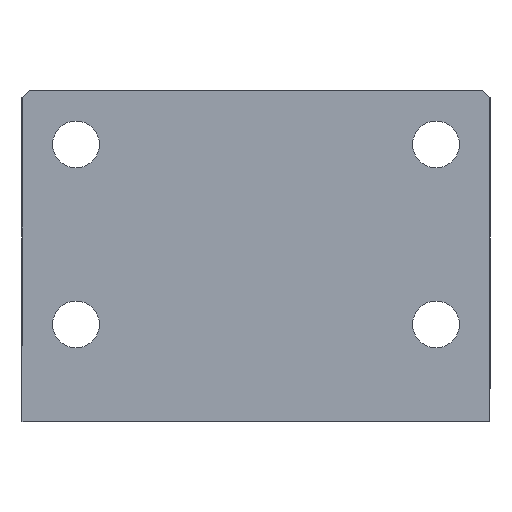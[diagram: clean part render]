
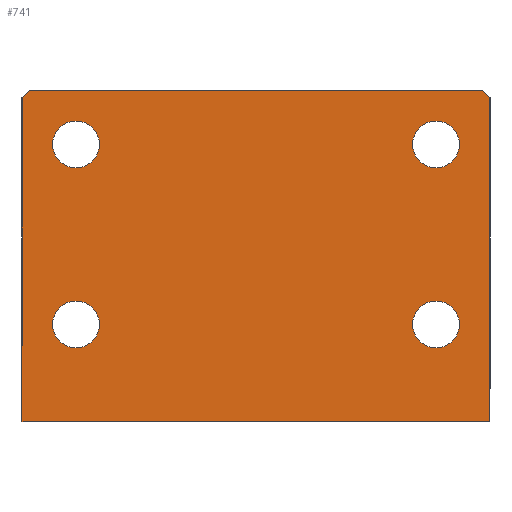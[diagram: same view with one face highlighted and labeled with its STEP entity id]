
A CAD part, front view. The second image highlights one B-rep face of the part: STEP entity #741.
In plain terms, the highlighted planar face has unit normal (0, -1, 0).
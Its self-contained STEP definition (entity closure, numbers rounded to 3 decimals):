
#2 = EDGE_CURVE ( 'NONE', #465, #338, #923, .T. ) ;
#3 = VERTEX_POINT ( 'NONE', #968 ) ;
#6 = CARTESIAN_POINT ( 'NONE',  ( 25., 0., -32.5 ) ) ;
#17 = CARTESIAN_POINT ( 'NONE',  ( -25., 0., -7.5 ) ) ;
#21 = DIRECTION ( 'NONE',  ( 0., 0., 1. ) ) ;
#64 = EDGE_CURVE ( 'NONE', #355, #707, #182, .T. ) ;
#85 = DIRECTION ( 'NONE',  ( 0., 0., 1. ) ) ;
#101 = EDGE_CURVE ( 'NONE', #156, #1108, #955, .T. ) ;
#104 = DIRECTION ( 'NONE',  ( 0., 1., 0. ) ) ;
#116 = ORIENTED_EDGE ( 'NONE', *, *, #939, .T. ) ;
#117 = CARTESIAN_POINT ( 'NONE',  ( -32.5, 0., 0. ) ) ;
#131 = EDGE_LOOP ( 'NONE', ( #1181, #564 ) ) ;
#139 = EDGE_LOOP ( 'NONE', ( #811, #1128 ) ) ;
#153 = CARTESIAN_POINT ( 'NONE',  ( 32.5, 0., -1. ) ) ;
#154 = AXIS2_PLACEMENT_3D ( 'NONE', #889, #344, #433 ) ;
#156 = VERTEX_POINT ( 'NONE', #153 ) ;
#159 = FACE_BOUND ( 'NONE', #139, .T. ) ;
#182 = LINE ( 'NONE', #236, #500 ) ;
#202 = CARTESIAN_POINT ( 'NONE',  ( 25., 0., -29.25 ) ) ;
#203 = DIRECTION ( 'NONE',  ( 0., 1., 0. ) ) ;
#214 = DIRECTION ( 'NONE',  ( 0., 1., 0. ) ) ;
#216 = EDGE_CURVE ( 'NONE', #649, #894, #1044, .T. ) ;
#227 = FACE_BOUND ( 'NONE', #1053, .T. ) ;
#236 = CARTESIAN_POINT ( 'NONE',  ( -15.75, 0., 15.75 ) ) ;
#248 = CARTESIAN_POINT ( 'NONE',  ( 25., 0., -4.25 ) ) ;
#260 = DIRECTION ( 'NONE',  ( 0., -1., 0. ) ) ;
#326 = AXIS2_PLACEMENT_3D ( 'NONE', #1016, #260, #538 ) ;
#338 = VERTEX_POINT ( 'NONE', #248 ) ;
#344 = DIRECTION ( 'NONE',  ( 0., 1., 0. ) ) ;
#349 = DIRECTION ( 'NONE',  ( 0., 1., 0. ) ) ;
#355 = VERTEX_POINT ( 'NONE', #1018 ) ;
#376 = DIRECTION ( 'NONE',  ( 0., 0., 1. ) ) ;
#377 = DIRECTION ( 'NONE',  ( 0., 0., -1. ) ) ;
#382 = EDGE_CURVE ( 'NONE', #460, #1029, #400, .T. ) ;
#394 = DIRECTION ( 'NONE',  ( 1., 0., 0. ) ) ;
#399 = CARTESIAN_POINT ( 'NONE',  ( -32.5, 0., 0. ) ) ;
#400 = CIRCLE ( 'NONE', #985, 3.25 ) ;
#409 = DIRECTION ( 'NONE',  ( 0., 0., 1. ) ) ;
#413 = LINE ( 'NONE', #635, #1023 ) ;
#424 = DIRECTION ( 'NONE',  ( -0.707, 0., -0.707 ) ) ;
#429 = DIRECTION ( 'NONE',  ( -0.707, 0., 0.707 ) ) ;
#433 = DIRECTION ( 'NONE',  ( 0., 0., 1. ) ) ;
#452 = AXIS2_PLACEMENT_3D ( 'NONE', #793, #685, #409 ) ;
#455 = CIRCLE ( 'NONE', #515, 3.25 ) ;
#457 = VECTOR ( 'NONE', #429, 1000. ) ;
#459 = EDGE_CURVE ( 'NONE', #894, #649, #455, .T. ) ;
#460 = VERTEX_POINT ( 'NONE', #202 ) ;
#465 = VERTEX_POINT ( 'NONE', #772 ) ;
#478 = EDGE_CURVE ( 'NONE', #355, #1108, #513, .T. ) ;
#479 = ORIENTED_EDGE ( 'NONE', *, *, #789, .F. ) ;
#482 = DIRECTION ( 'NONE',  ( 0., 0., 1. ) ) ;
#495 = VERTEX_POINT ( 'NONE', #667 ) ;
#500 = VECTOR ( 'NONE', #424, 1000. ) ;
#513 = LINE ( 'NONE', #117, #748 ) ;
#515 = AXIS2_PLACEMENT_3D ( 'NONE', #943, #214, #576 ) ;
#517 = CARTESIAN_POINT ( 'NONE',  ( -32.5, 0., -46. ) ) ;
#519 = EDGE_LOOP ( 'NONE', ( #653, #116 ) ) ;
#538 = DIRECTION ( 'NONE',  ( 0., 0., -1. ) ) ;
#540 = CIRCLE ( 'NONE', #842, 3.25 ) ;
#564 = ORIENTED_EDGE ( 'NONE', *, *, #960, .T. ) ;
#576 = DIRECTION ( 'NONE',  ( 0., 0., 1. ) ) ;
#582 = ORIENTED_EDGE ( 'NONE', *, *, #1079, .F. ) ;
#587 = LINE ( 'NONE', #399, #1134 ) ;
#622 = ORIENTED_EDGE ( 'NONE', *, *, #875, .F. ) ;
#628 = FACE_BOUND ( 'NONE', #519, .T. ) ;
#635 = CARTESIAN_POINT ( 'NONE',  ( 32.5, 0., 0. ) ) ;
#640 = CARTESIAN_POINT ( 'NONE',  ( -32.5, 0., -46. ) ) ;
#649 = VERTEX_POINT ( 'NONE', #986 ) ;
#653 = ORIENTED_EDGE ( 'NONE', *, *, #994, .T. ) ;
#654 = EDGE_LOOP ( 'NONE', ( #859, #814, #582, #622, #479, #829 ) ) ;
#667 = CARTESIAN_POINT ( 'NONE',  ( -25., 0., -10.75 ) ) ;
#681 = DIRECTION ( 'NONE',  ( 0., 0., 1. ) ) ;
#685 = DIRECTION ( 'NONE',  ( 0., 1., 0. ) ) ;
#691 = CIRCLE ( 'NONE', #154, 3.25 ) ;
#693 = EDGE_CURVE ( 'NONE', #338, #465, #691, .T. ) ;
#694 = AXIS2_PLACEMENT_3D ( 'NONE', #1187, #349, #85 ) ;
#695 = VERTEX_POINT ( 'NONE', #517 ) ;
#707 = VERTEX_POINT ( 'NONE', #997 ) ;
#710 = VERTEX_POINT ( 'NONE', #1076 ) ;
#720 = FACE_BOUND ( 'NONE', #131, .T. ) ;
#741 = ADVANCED_FACE ( 'NONE', ( #227, #1168, #720, #159, #628 ), #818, .T. ) ;
#748 = VECTOR ( 'NONE', #394, 1000. ) ;
#756 = CARTESIAN_POINT ( 'NONE',  ( 25., 0., -35.75 ) ) ;
#765 = CARTESIAN_POINT ( 'NONE',  ( -25., 0., -35.75 ) ) ;
#768 = CIRCLE ( 'NONE', #1142, 3.25 ) ;
#772 = CARTESIAN_POINT ( 'NONE',  ( 25., 0., -10.75 ) ) ;
#789 = EDGE_CURVE ( 'NONE', #156, #3, #413, .T. ) ;
#793 = CARTESIAN_POINT ( 'NONE',  ( 25., 0., -7.5 ) ) ;
#811 = ORIENTED_EDGE ( 'NONE', *, *, #693, .T. ) ;
#814 = ORIENTED_EDGE ( 'NONE', *, *, #64, .T. ) ;
#818 = PLANE ( 'NONE',  #326 ) ;
#829 = ORIENTED_EDGE ( 'NONE', *, *, #101, .T. ) ;
#831 = DIRECTION ( 'NONE',  ( -1., 0., 0. ) ) ;
#842 = AXIS2_PLACEMENT_3D ( 'NONE', #1110, #104, #21 ) ;
#859 = ORIENTED_EDGE ( 'NONE', *, *, #478, .F. ) ;
#860 = ORIENTED_EDGE ( 'NONE', *, *, #459, .T. ) ;
#875 = EDGE_CURVE ( 'NONE', #3, #695, #1156, .T. ) ;
#889 = CARTESIAN_POINT ( 'NONE',  ( 25., 0., -7.5 ) ) ;
#894 = VERTEX_POINT ( 'NONE', #765 ) ;
#923 = CIRCLE ( 'NONE', #452, 3.25 ) ;
#927 = CARTESIAN_POINT ( 'NONE',  ( 25., 0., -32.5 ) ) ;
#929 = DIRECTION ( 'NONE',  ( 0., 1., 0. ) ) ;
#930 = DIRECTION ( 'NONE',  ( 0., 1., 0. ) ) ;
#931 = CARTESIAN_POINT ( 'NONE',  ( 31.5, 0., 0. ) ) ;
#939 = EDGE_CURVE ( 'NONE', #495, #710, #768, .T. ) ;
#943 = CARTESIAN_POINT ( 'NONE',  ( -25., 0., -32.5 ) ) ;
#955 = LINE ( 'NONE', #1074, #457 ) ;
#960 = EDGE_CURVE ( 'NONE', #1029, #460, #965, .T. ) ;
#965 = CIRCLE ( 'NONE', #1054, 3.25 ) ;
#968 = CARTESIAN_POINT ( 'NONE',  ( 32.5, 0., -46. ) ) ;
#985 = AXIS2_PLACEMENT_3D ( 'NONE', #927, #929, #376 ) ;
#986 = CARTESIAN_POINT ( 'NONE',  ( -25., 0., -29.25 ) ) ;
#994 = EDGE_CURVE ( 'NONE', #710, #495, #540, .T. ) ;
#997 = CARTESIAN_POINT ( 'NONE',  ( -32.5, 0., -1. ) ) ;
#1003 = ORIENTED_EDGE ( 'NONE', *, *, #216, .T. ) ;
#1009 = VECTOR ( 'NONE', #831, 1000. ) ;
#1016 = CARTESIAN_POINT ( 'NONE',  ( 0., 0., 0. ) ) ;
#1018 = CARTESIAN_POINT ( 'NONE',  ( -31.5, 0., 0. ) ) ;
#1023 = VECTOR ( 'NONE', #377, 1000. ) ;
#1029 = VERTEX_POINT ( 'NONE', #756 ) ;
#1038 = DIRECTION ( 'NONE',  ( 0., 0., 1. ) ) ;
#1044 = CIRCLE ( 'NONE', #694, 3.25 ) ;
#1053 = EDGE_LOOP ( 'NONE', ( #1003, #860 ) ) ;
#1054 = AXIS2_PLACEMENT_3D ( 'NONE', #6, #930, #1038 ) ;
#1074 = CARTESIAN_POINT ( 'NONE',  ( 15.75, 0., 15.75 ) ) ;
#1076 = CARTESIAN_POINT ( 'NONE',  ( -25., 0., -4.25 ) ) ;
#1079 = EDGE_CURVE ( 'NONE', #695, #707, #587, .T. ) ;
#1108 = VERTEX_POINT ( 'NONE', #931 ) ;
#1110 = CARTESIAN_POINT ( 'NONE',  ( -25., 0., -7.5 ) ) ;
#1128 = ORIENTED_EDGE ( 'NONE', *, *, #2, .T. ) ;
#1134 = VECTOR ( 'NONE', #681, 1000. ) ;
#1142 = AXIS2_PLACEMENT_3D ( 'NONE', #17, #203, #482 ) ;
#1156 = LINE ( 'NONE', #640, #1009 ) ;
#1168 = FACE_OUTER_BOUND ( 'NONE', #654, .T. ) ;
#1181 = ORIENTED_EDGE ( 'NONE', *, *, #382, .T. ) ;
#1187 = CARTESIAN_POINT ( 'NONE',  ( -25., 0., -32.5 ) ) ;
